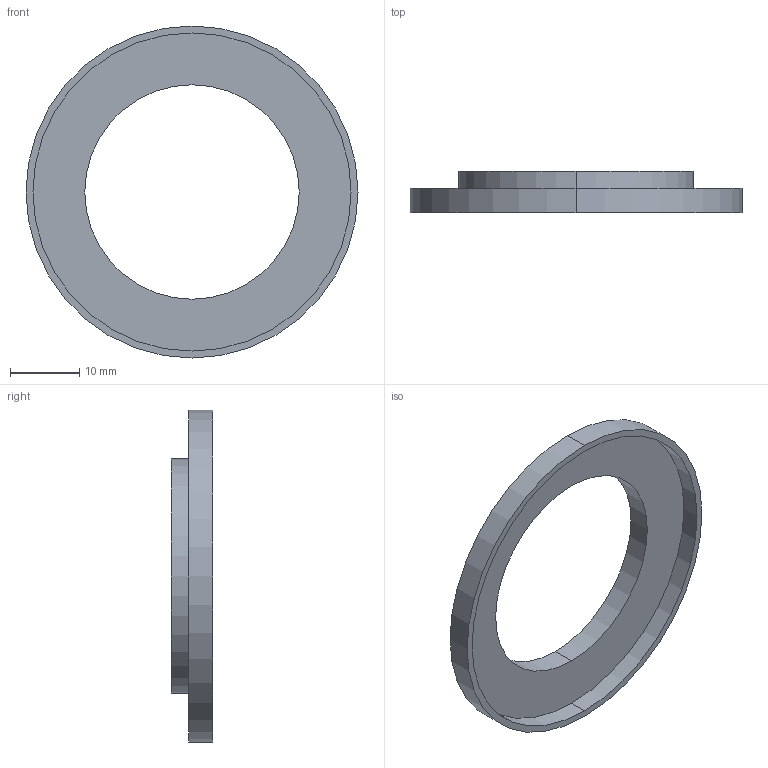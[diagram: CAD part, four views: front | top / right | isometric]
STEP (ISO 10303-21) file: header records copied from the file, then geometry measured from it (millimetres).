
FILE_DESCRIPTION (( 'STEP AP214' ), '1' );
FILE_NAME ('SU34-46.STEP', '2019-04-03T14:56:09', ( '' ), ( '' ), 'SwSTEP 2.0', 'SolidWorks 2019', '' );
FILE_SCHEMA (( 'AUTOMOTIVE_DESIGN' ));
Length unit declared in the file: millimetre
Products named in the file (1): SU34-46
Bounding box: 48 x 6 x 48 mm (x, y, z)
Volume: 1652.6 mm3; surface area: 3614.6 mm2
Topology: 1 solids, 1 shells, 12 faces, 24 edges, 16 vertices
Faces by surface type: cylinder 8, plane 4
Entity records: 362 total; most frequent: DIRECTION 66, CARTESIAN_POINT 53, ORIENTED_EDGE 48, AXIS2_PLACEMENT_3D 29, EDGE_CURVE 24, VERTEX_POINT 16, EDGE_LOOP 16, CIRCLE 16
